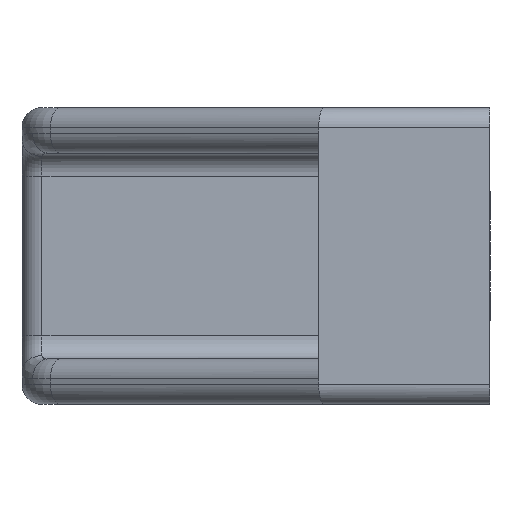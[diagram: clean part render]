
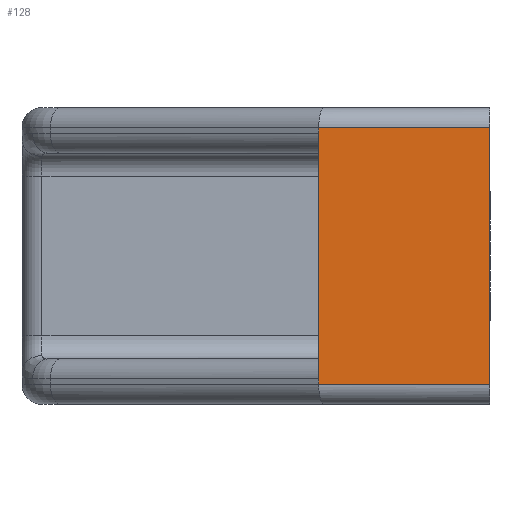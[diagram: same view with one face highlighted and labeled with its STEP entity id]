
A CAD part, left-side view. The second image highlights one B-rep face of the part: STEP entity #128.
In plain terms, the highlighted planar face has unit normal (-1, 0, 0).
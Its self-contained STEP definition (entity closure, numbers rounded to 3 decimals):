
#64 = CARTESIAN_POINT ( 'NONE',  ( -68.5, 0., 11.25 ) ) ;
#128 = ADVANCED_FACE ( 'NONE', ( #448 ), #1208, .F. ) ;
#165 = CARTESIAN_POINT ( 'NONE',  ( -68.5, 15., -11.25 ) ) ;
#170 = DIRECTION ( 'NONE',  ( 0., 0., -1. ) ) ;
#190 = LINE ( 'NONE', #1697, #473 ) ;
#223 = VERTEX_POINT ( 'NONE', #1942 ) ;
#266 = DIRECTION ( 'NONE',  ( 1., 0., 0. ) ) ;
#367 = DIRECTION ( 'NONE',  ( 0., 0., -1. ) ) ;
#435 = CARTESIAN_POINT ( 'NONE',  ( -68.5, 15., 11.25 ) ) ;
#448 = FACE_OUTER_BOUND ( 'NONE', #1319, .T. ) ;
#473 = VECTOR ( 'NONE', #1871, 1000. ) ;
#527 = VERTEX_POINT ( 'NONE', #2342 ) ;
#528 = LINE ( 'NONE', #899, #1963 ) ;
#562 = EDGE_CURVE ( 'NONE', #1411, #1829, #1548, .T. ) ;
#702 = ORIENTED_EDGE ( 'NONE', *, *, #1296, .T. ) ;
#719 = EDGE_CURVE ( 'NONE', #1109, #1808, #1885, .T. ) ;
#788 = VECTOR ( 'NONE', #1370, 1000. ) ;
#860 = ORIENTED_EDGE ( 'NONE', *, *, #1751, .F. ) ;
#865 = VECTOR ( 'NONE', #2058, 1000. ) ;
#899 = CARTESIAN_POINT ( 'NONE',  ( -68.5, 15., 13. ) ) ;
#1109 = VERTEX_POINT ( 'NONE', #435 ) ;
#1150 = AXIS2_PLACEMENT_3D ( 'NONE', #1956, #266, #1774 ) ;
#1208 = PLANE ( 'NONE',  #1150 ) ;
#1294 = CARTESIAN_POINT ( 'NONE',  ( -68.5, 0., -11.25 ) ) ;
#1296 = EDGE_CURVE ( 'NONE', #1411, #1109, #190, .T. ) ;
#1309 = LINE ( 'NONE', #2386, #865 ) ;
#1319 = EDGE_LOOP ( 'NONE', ( #1709, #702, #2328, #860, #2160, #1711 ) ) ;
#1370 = DIRECTION ( 'NONE',  ( 0., 0., -1. ) ) ;
#1389 = CARTESIAN_POINT ( 'NONE',  ( -68.5, 0., 13. ) ) ;
#1411 = VERTEX_POINT ( 'NONE', #64 ) ;
#1448 = CARTESIAN_POINT ( 'NONE',  ( -68.5, 15., 10.75 ) ) ;
#1548 = LINE ( 'NONE', #1389, #788 ) ;
#1637 = DIRECTION ( 'NONE',  ( 0., -1., 0. ) ) ;
#1640 = LINE ( 'NONE', #165, #2043 ) ;
#1697 = CARTESIAN_POINT ( 'NONE',  ( -68.5, 15., 11.25 ) ) ;
#1703 = EDGE_CURVE ( 'NONE', #527, #223, #528, .T. ) ;
#1709 = ORIENTED_EDGE ( 'NONE', *, *, #562, .F. ) ;
#1711 = ORIENTED_EDGE ( 'NONE', *, *, #1837, .T. ) ;
#1751 = EDGE_CURVE ( 'NONE', #527, #1808, #1309, .T. ) ;
#1774 = DIRECTION ( 'NONE',  ( 0., 0., -1. ) ) ;
#1808 = VERTEX_POINT ( 'NONE', #1448 ) ;
#1829 = VERTEX_POINT ( 'NONE', #1294 ) ;
#1837 = EDGE_CURVE ( 'NONE', #223, #1829, #1640, .T. ) ;
#1871 = DIRECTION ( 'NONE',  ( 0., 1., 0. ) ) ;
#1885 = LINE ( 'NONE', #2232, #2323 ) ;
#1942 = CARTESIAN_POINT ( 'NONE',  ( -68.5, 15., -11.25 ) ) ;
#1956 = CARTESIAN_POINT ( 'NONE',  ( -68.5, 15., 13. ) ) ;
#1963 = VECTOR ( 'NONE', #367, 1000. ) ;
#2043 = VECTOR ( 'NONE', #1637, 1000. ) ;
#2058 = DIRECTION ( 'NONE',  ( 0., 0., 1. ) ) ;
#2160 = ORIENTED_EDGE ( 'NONE', *, *, #1703, .T. ) ;
#2232 = CARTESIAN_POINT ( 'NONE',  ( -68.5, 15., 13. ) ) ;
#2323 = VECTOR ( 'NONE', #170, 1000. ) ;
#2328 = ORIENTED_EDGE ( 'NONE', *, *, #719, .T. ) ;
#2342 = CARTESIAN_POINT ( 'NONE',  ( -68.5, 15., -10.75 ) ) ;
#2386 = CARTESIAN_POINT ( 'NONE',  ( -68.5, 15., -9. ) ) ;
